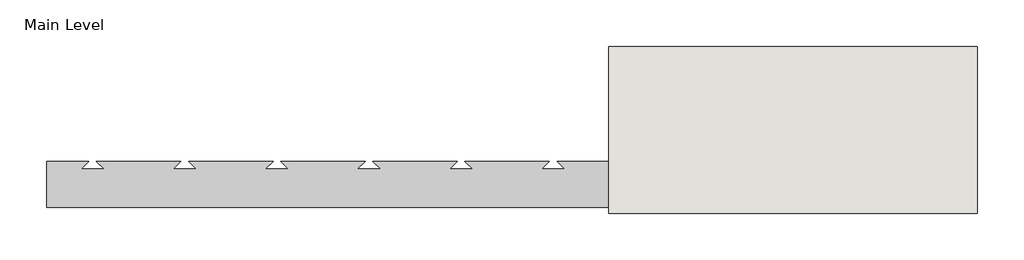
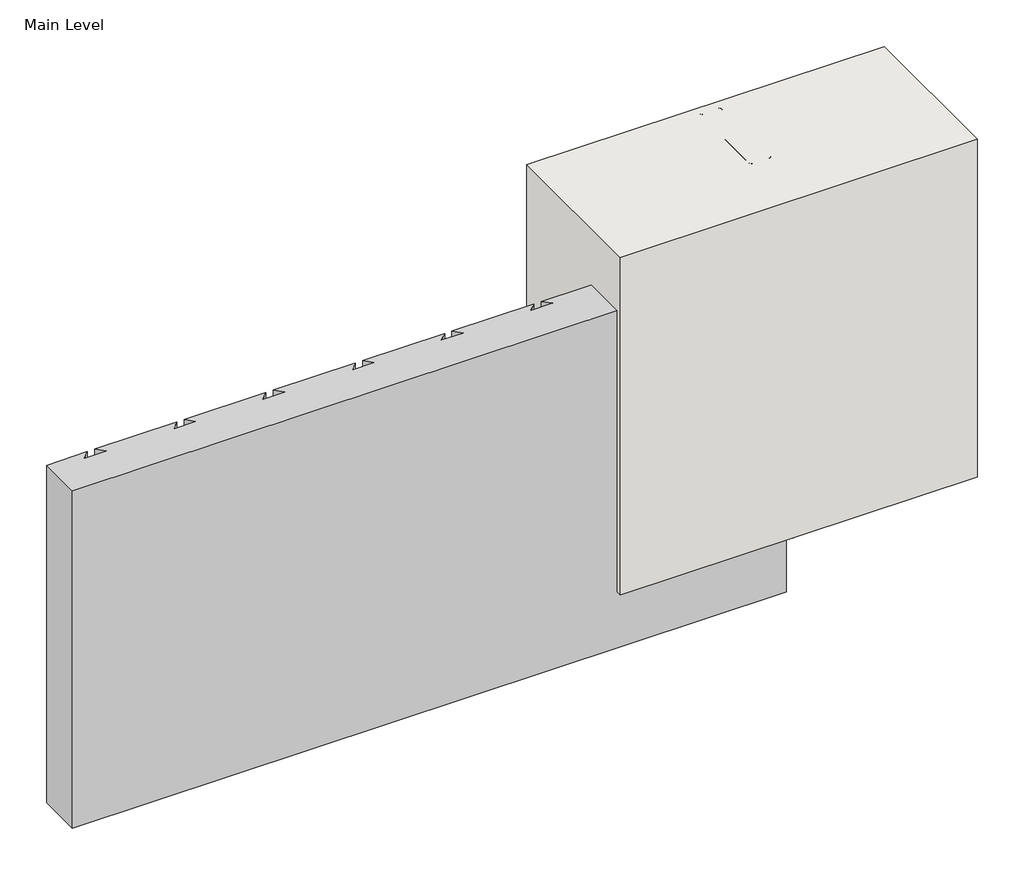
# One storey, incomplete: 11 proxies, 1 wall.
"""IFC4 building model written with IfcOpenShell, lengths in millimetres."""

from ifc_helpers import new_model, si_unit, origin, origin_with_axes, place, context, project, spatial, polyline, outline, extrude, transform, mapped, element, save
from components import generic_models_0ed8512b, generic_models_38adcc71, generic_models_03ec6e0e, proxy_998bcb27, proxy_5fc139d0, finish_coat_valley_finish_coat_valley_a092b3c2, proxy_d4c17246

model = new_model("IFC4")

# Units and contexts
model_context = context("Model", 3, world=origin())
ifc_project = project(units=[si_unit("LENGTHUNIT", "METRE", prefix="MILLI")], contexts=[model_context])

# Site, building, storey
site = spatial("IfcSite", under=ifc_project)
building = spatial("IfcBuilding", under=site)
storey = spatial("IfcBuildingStorey", under=building, Name="Main Level", Elevation=0.0)

# Proxies
placement = place(None, origin())
generic_models_shape = generic_models_0ed8512b(model_context)
element("IfcBuildingElementProxy", 1, Name="Durabond Generic Model Insulation Adhesive Flat : Durabond Generic Model Insulation Adhesive Flat", ObjectType="Durabond Generic Model Insulation Adhesive Flat : Durabond Generic Model Insulation Adhesive Flat", at=placement, inside=storey, context=model_context, shape_type="MappedRepresentation", body=[
    mapped(generic_models_shape, transform((26770.9539273, 627.6316297, 0.0), x_axis=(1.0, 0.0, 0.0), y_axis=(0.0, 1.0, 0.0), z_axis=(0.0, 0.0, 1.0))),
])
element("IfcBuildingElementProxy", 2, Name="Durabond Generic Model Insulation Adhesive Flat : Durabond Generic Model Insulation Adhesive Flat", ObjectType="Durabond Generic Model Insulation Adhesive Flat : Durabond Generic Model Insulation Adhesive Flat", at=placement, inside=storey, context=model_context, shape_type="MappedRepresentation", body=[
    mapped(generic_models_shape, transform((26694.7539273, 627.6316297, 0.0), x_axis=(1.0, 0.0, 0.0), y_axis=(0.0, 1.0, 0.0), z_axis=(0.0, 0.0, 1.0))),
])
element("IfcBuildingElementProxy", 3, Name="Durabond Generic Model Insulation Adhesive Flat : Durabond Generic Model Insulation Adhesive Flat", ObjectType="Durabond Generic Model Insulation Adhesive Flat : Durabond Generic Model Insulation Adhesive Flat", at=placement, inside=storey, context=model_context, shape_type="MappedRepresentation", body=[
    mapped(generic_models_shape, transform((26618.5539273, 627.6316297, 0.0), x_axis=(1.0, 0.0, 0.0), y_axis=(0.0, 1.0, 0.0), z_axis=(0.0, 0.0, 1.0))),
])
element("IfcBuildingElementProxy", 4, Name="Durabond Generic Model Insulation Adhesive Flat : Durabond Generic Model Insulation Adhesive Flat", ObjectType="Durabond Generic Model Insulation Adhesive Flat : Durabond Generic Model Insulation Adhesive Flat", at=placement, inside=storey, context=model_context, shape_type="MappedRepresentation", body=[
    mapped(generic_models_shape, transform((26542.3539273, 627.6316297, 0.0), x_axis=(1.0, 0.0, 0.0), y_axis=(0.0, 1.0, 0.0), z_axis=(0.0, 0.0, 1.0))),
])
generic_models_2_shape = generic_models_38adcc71(model_context)
element("IfcBuildingElementProxy", 5, Name="CRAi Generic Model Backer Rod and Sealant : CRAi Generic Model Backer Rod and Sealant", ObjectType="CRAi Generic Model Backer Rod and Sealant : CRAi Generic Model Backer Rod and Sealant", at=placement, inside=storey, context=model_context, shape_type="MappedRepresentation", body=[
    mapped(generic_models_2_shape, transform((26824.9289273, 570.4816297, 0.0), x_axis=(1.0, 0.0, 0.0), y_axis=(0.0, 1.0, 0.0), z_axis=(0.0, 0.0, 1.0))),
])
generic_models_3_shape = generic_models_03ec6e0e(model_context)
element("IfcBuildingElementProxy", 6, Name="CRAi Generic Model Drywall Screw : CRAi Generic Model Drywall Screw", ObjectType="CRAi Generic Model Drywall Screw : CRAi Generic Model Drywall Screw", at=placement, inside=storey, context=model_context, shape_type="MappedRepresentation", body=[
    mapped(generic_models_3_shape, transform((26834.4539273, 633.9816297, 584.2), x_axis=(1.0, 0.0, 0.0), y_axis=(0.0, 0.0, 1.0), z_axis=(0.0, -1.0, 0.0))),
])
element("IfcBuildingElementProxy", 7, Name="CRAi Generic Model Drywall Screw : CRAi Generic Model Drywall Screw", ObjectType="CRAi Generic Model Drywall Screw : CRAi Generic Model Drywall Screw", at=placement, inside=storey, context=model_context, shape_type="MappedRepresentation", body=[
    mapped(generic_models_3_shape, transform((26815.4039273, 633.9816297, 584.2), x_axis=(1.0, 0.0, 0.0), y_axis=(0.0, 0.0, 1.0), z_axis=(0.0, -1.0, 0.0))),
])
proxy_shape = proxy_998bcb27(model_context)
element("IfcBuildingElementProxy", 8, Name="Durabond Generic Model Flexlite Insulation Board : 3\"", ObjectType="Durabond Generic Model Flexlite Insulation Board : 3\"", at=placement, inside=storey, context=model_context, shape_type="MappedRepresentation", body=[
    mapped(proxy_shape, transform((26199.4539273, 624.4566297, 203.2), x_axis=(1.0, 0.0, 0.0), y_axis=(0.0, 0.0, 1.0), z_axis=(0.0, -1.0, 0.0))),
])
proxy_2_shape = proxy_5fc139d0(model_context)
element("IfcBuildingElementProxy", 9, Name="Durabond Generic Model Barrier Seam Tape Straight : 4\" Barrier Seam Tape", ObjectType="Durabond Generic Model Barrier Seam Tape Straight : 4\" Barrier Seam Tape", at=placement, inside=storey, context=model_context, shape_type="MappedRepresentation", body=[
    mapped(proxy_2_shape, transform((26875.7289273, 633.9816297, 0.0), x_axis=(1.0, 0.0, 0.0), y_axis=(0.0, 1.0, 0.0), z_axis=(0.0, 0.0, 1.0))),
])
finish_coat_valley_finish_coat_valley_shape = finish_coat_valley_finish_coat_valley_a092b3c2(model_context)
element("IfcBuildingElementProxy", 10, Name="Finish Coat Valley : Finish Coat Valley", ObjectType="Finish Coat Valley : Finish Coat Valley", at=placement, inside=storey, context=model_context, shape_type="MappedRepresentation", body=[
    mapped(finish_coat_valley_finish_coat_valley_shape, transform((0.0, 0.0, 0.0), x_axis=(1.0, 0.0, 0.0), y_axis=(0.0, 1.0, 0.0), z_axis=(0.0, 0.0, 1.0))),
])
proxy_3_shape = proxy_d4c17246(model_context)
element("IfcBuildingElementProxy", 11, Name="CRAi Generic Model Metal Stud : Metal Framing Stud - 1\" x 3.5\"", ObjectType="CRAi Generic Model Metal Stud : Metal Framing Stud - 1\" x 3.5\"", at=placement, inside=storey, context=model_context, shape_type="MappedRepresentation", body=[
    mapped(proxy_3_shape, transform((26824.9289273, 726.0566297, 0.0), x_axis=(1.0, 0.0, 0.0), y_axis=(0.0, 1.0, 0.0), z_axis=(0.0, 0.0, 1.0))),
])

# Wall
element("IfcWall", 12, ObjectType="189mm (7.5”) EIFS Field Applied on Mtl. Stud Layer - 50mm Grooved Insulation Board Metal Stud Wall (AirStop)", at=placement, inside=storey, context=model_context, shape_type="SweptSolid", body=[
    extrude(outline(polyline([(27129.7289273, 538.7316297), (26520.1289273, 538.7316297), (26520.1289273, 814.9566297), (27129.7289273, 814.9566297), (27129.7289273, 538.7316297)])), origin_with_axes(), (0.0, 0.0, 1.0), 609.6),
])

save(model, "model.ifc")
